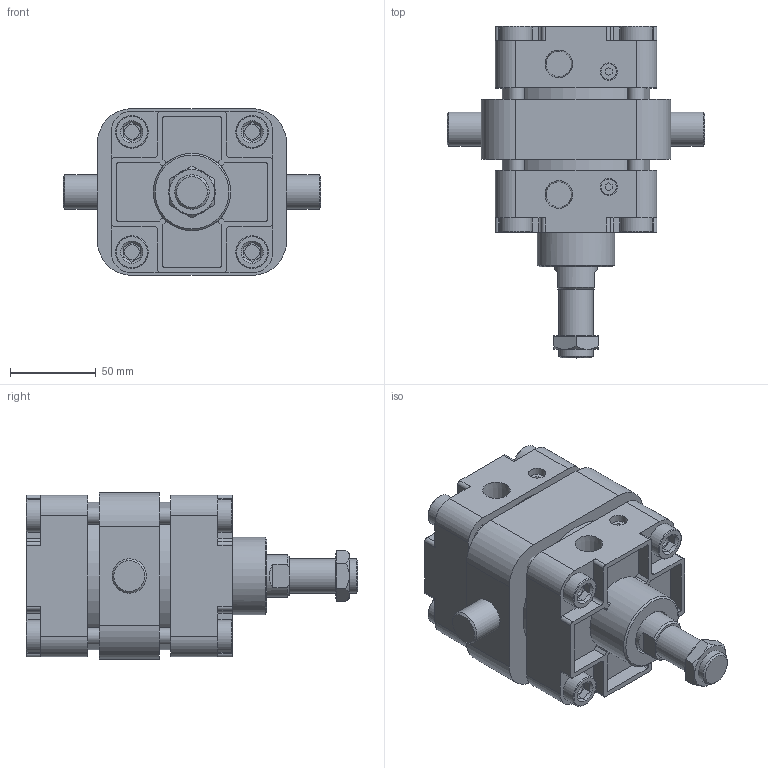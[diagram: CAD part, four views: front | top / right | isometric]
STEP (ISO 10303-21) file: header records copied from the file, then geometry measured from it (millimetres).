
FILE_DESCRIPTION(/* description */ ('Unknown'),/* implementation_level */ '2;1');
FILE_NAME(/* name */ 'WA80-0-TC',/* time_stamp */ '2026-07-17T16:55:54+08:00',/* author */ ('Unknown'),/* organization */ ('Unknown'),/* preprocessor_version */ 'ST-DEVELOPER v16.7',/* originating_system */ 'DEX',/* authorisation */ $);
FILE_SCHEMA (('CONFIG_CONTROL_DESIGN'));
Length unit declared in the file: millimetre
Products named in the file (8): WA80-0-TC; WA80_前; WA80_岃搵; WA80_鋁; WA80_､ﾟｶbｬ｡_;m^XD}; M20-1.5P-8_螺; WA80_TｴU､偀:; WA80_TC
Assembly tree (10 placements, depth 2):
  WA80-0-TC
    WA80_前
    WA80_岃搵
    WA80_鋁
    WA80_､ﾟｶbｬ｡_;m^XD}
    M20-1.5P-8_螺
    WA80_TｴU､偀:  x4
    WA80_TC
Bounding box: 150 x 193 x 97 mm (x, y, z)
Volume: 1028177.1 mm3; surface area: 208537.7 mm2
Topology: 10 solids, 10 shells, 390 faces, 942 edges, 623 vertices
Faces by surface type: plane 227, cylinder 130, cone 25, torus 8
Full cylindrical faces by diameter (mm): 8.5 x12, 9 x2, 10 x6, 14 x12, 14.2 x4, 18.376 x1, 19 x8, 20 x3, 25 x2, 26 x1, 45 x1, 79.5 x1, 80 x3, 86 x1, 87 x1
Entity records: 10670 total; most frequent: CARTESIAN_POINT 1570, DIRECTION 1506, ORIENTED_EDGE 1348, EDGE_CURVE 674, AXIS2_PLACEMENT_3D 558, VERTEX_POINT 474, EDGE_LOOP 400, FACE_BOUND 400
